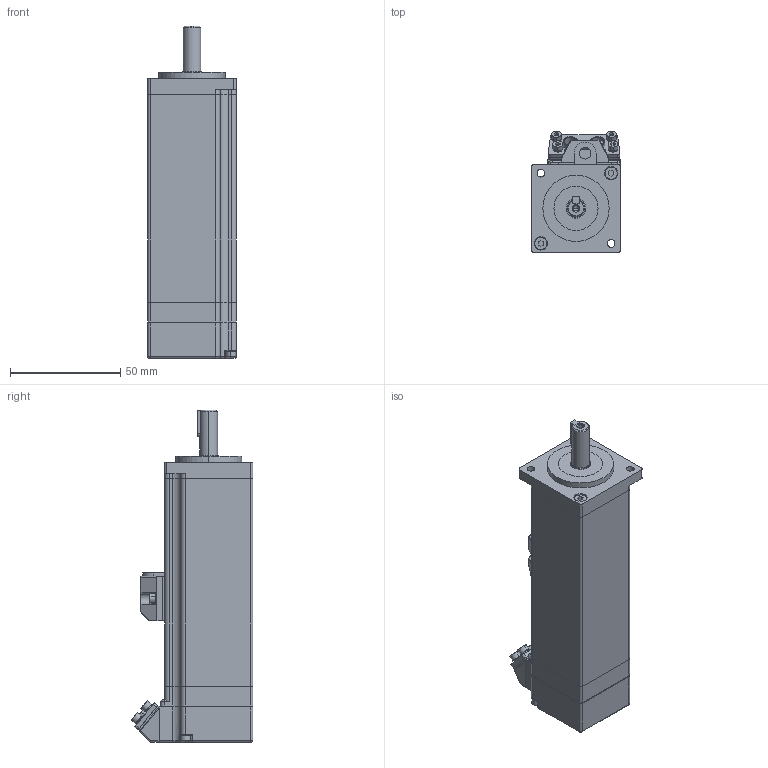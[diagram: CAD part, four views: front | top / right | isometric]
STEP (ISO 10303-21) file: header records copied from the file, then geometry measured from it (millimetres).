
FILE_DESCRIPTION (( 'STEP AP203' ), '1' );
FILE_NAME ('SMC40S-0010-30MBK-5DSU.STEP', '2020-08-10T08:21:08', ( '' ), ( '' ), 'SwSTEP 2.0', 'SolidWorks 2016', '' );
FILE_SCHEMA (( 'CONFIG_CONTROL_DESIGN' ));
Length unit declared in the file: millimetre
Products named in the file (22): 10105010001内六角圆柱头螺钉M2.5X6; 10105030048諉華え; 10105010051内六角圆柱头螺钉M2.5X20; 10109070053鎢攫欶-V1.0; 10109090003晤鎢ん竘盄碟-V1.0; 10109030045綴傷裔-V1.1; 10109020257儂褲-V1.4; 10105030018 GBT93 标准弹簧垫圈 2.5; 10109010024前端盖-V1.0; 207040855蛌赽-V1.0; 10110050003躇猾菜B-V1.0; 10105010027内六角圆柱头螺钉M3X12; 10108030858蛌粣-V1.1; 10105010003内六角圆柱头螺钉M2.5X4; 10110060001萇埭竘盄菜; 207010822隅赽軞傖-V1.0; SMC40S-0010-30MBK-5DSU; 10109090001萇埭竘盄碟; 10110060016编码器引线盒密封圈-V1.0; 10109020258儂褲禱矗-V1.2; 10105050031普通C型平键GBT1096-C3X3X12; 10105070020嘎殤蚐猾VC9X20X3
Assembly tree (36 placements, depth 4):
  SMC40S-0010-30MBK-5DSU
    10109010024前端盖-V1.0
    207010822隅赽軞傖-V1.0
      10109020257儂褲-V1.4
        10109020258儂褲禱矗-V1.2
      10110060001萇埭竘盄菜
      10105030048諉華え
      10109090001萇埭竘盄碟
      10105010001内六角圆柱头螺钉M2.5X6  x2
      10105010003内六角圆柱头螺钉M2.5X4
      10105030018 GBT93 标准弹簧垫圈 2.5  x3
    10109030045綴傷裔-V1.1
    207040855蛌赽-V1.0
      10108030858蛌粣-V1.1
    10105070020嘎殤蚐猾VC9X20X3
    10110050003躇猾菜B-V1.0
    10109070053鎢攫欶-V1.0
    10110060016编码器引线盒密封圈-V1.0
    10109090003晤鎢ん竘盄碟-V1.0
    10105030018 GBT93 标准弹簧垫圈 2.5  x4
    10105010001内六角圆柱头螺钉M2.5X6  x4
    10105010027内六角圆柱头螺钉M3X12  x4
    10105010051内六角圆柱头螺钉M2.5X20  x2
    10105050031普通C型平键GBT1096-C3X3X12
Bounding box: 40 x 55.21 x 150.4 mm (x, y, z)
Volume: 84727.4 mm3; surface area: 61645 mm2
Topology: 33 solids, 33 shells, 913 faces, 2262 edges, 1461 vertices
Faces by surface type: cylinder 450, plane 387, cone 51, sphere 13, torus 10, bspline 2
Entity records: 24844 total; most frequent: CARTESIAN_POINT 4102, DIRECTION 4036, ORIENTED_EDGE 3596, EDGE_CURVE 1798, AXIS2_PLACEMENT_3D 1551, VERTEX_POINT 1165, VECTOR 934, LINE 934
